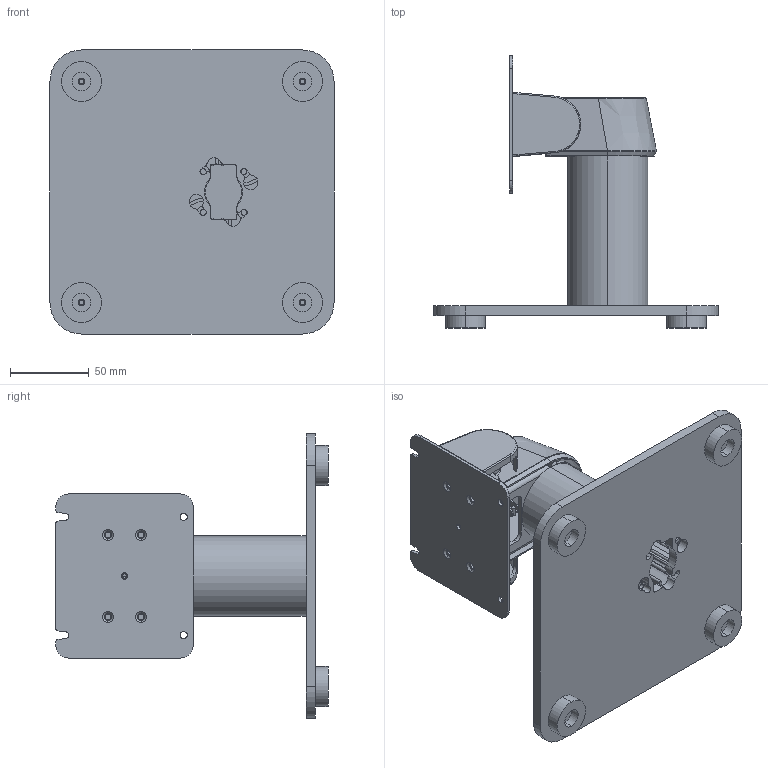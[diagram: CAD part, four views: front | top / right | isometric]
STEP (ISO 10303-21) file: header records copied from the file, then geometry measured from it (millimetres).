
FILE_DESCRIPTION((''),'2;1');
FILE_NAME('PS_SHORT_BASE_TLA_ASM','2022-03-16T21:08:48',('jackey.li'),('ELO'),'CREO PARAMETRIC BY PTC INC, 2020414','CREO PARAMETRIC BY PTC INC, 2020414','');
FILE_SCHEMA(('CONFIG_CONTROL_DESIGN'));
Length unit declared in the file: millimetre
Products named in the file (16): PS_BASE_S; PS_BASE_FOOT_S; PS_BASE_S_ASM; PS_POLE_95MM; PS_HINGE2; PS_HINGE1; PIN_3X8L; PS_HINGE1_ASM; HINGE_AXLE_M8; WASHER_LOCK_M6; PS_HINGE_ASM; PS_POLE_VESA_COVER; PS_HINGE_COVER; PS_VESA_PLATE_75MM; PS_HINGE_TLA_ASM; PS_SHORT_BASE_TLA_ASM
Assembly tree (22 placements, depth 5):
  PS_SHORT_BASE_TLA_ASM
    PS_BASE_S_ASM
      PS_BASE_S
      PS_BASE_FOOT_S  x4
    PS_POLE_95MM
    PS_HINGE_TLA_ASM
      PS_HINGE_ASM
        PS_HINGE2
        PS_HINGE1_ASM
          PS_HINGE1
          PIN_3X8L  x4
        HINGE_AXLE_M8  x2
        WASHER_LOCK_M6
      PS_POLE_VESA_COVER
      PS_HINGE_COVER
      PS_VESA_PLATE_75MM
Bounding box: 180 x 172.5 x 180 mm (x, y, z)
Volume: 336984.2 mm3; surface area: 206269.9 mm2
Topology: 18 solids, 18 shells, 605 faces, 1576 edges, 1022 vertices
Faces by surface type: cylinder 290, plane 266, cone 23, bspline 18, torus 8
Entity records: 19649 total; most frequent: CARTESIAN_POINT 5054, DIRECTION 3101, ORIENTED_EDGE 2948, EDGE_CURVE 1474, AXIS2_PLACEMENT_3D 1113, VERTEX_POINT 956, VECTOR 875, LINE 875
